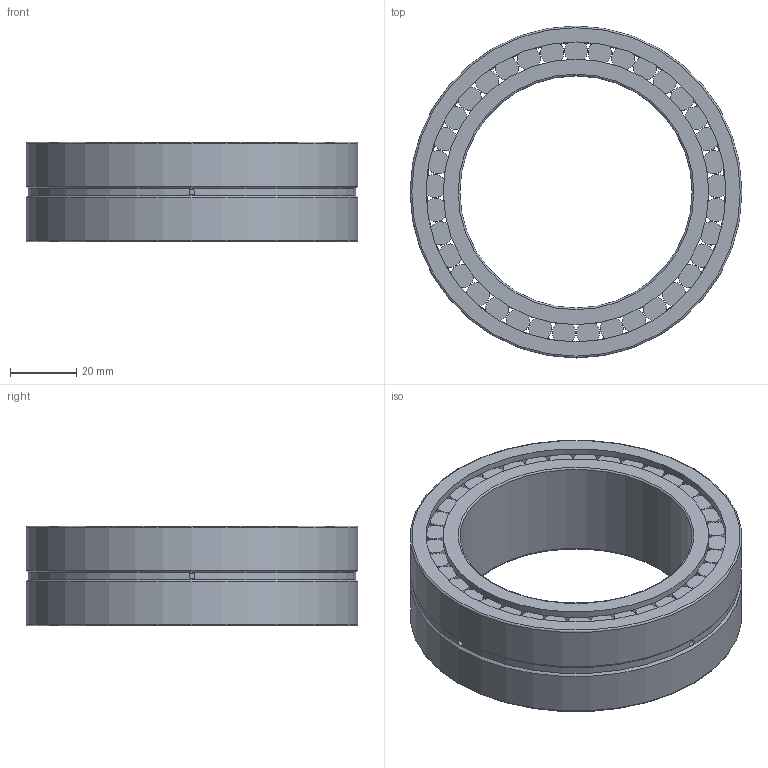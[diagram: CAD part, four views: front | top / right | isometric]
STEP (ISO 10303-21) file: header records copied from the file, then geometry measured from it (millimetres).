
FILE_DESCRIPTION(/* description */ (''),/* implementation_level */ '2;1');
FILE_NAME(/* name */ 'C:\Users\OUREHANEKD\Desktop\Ložiská\MODELY\JRVL\NNCF\NNCF49\NNC49--\NNCF4914V.stp',/* time_stamp */ '2016-09-08T13:57:13+02:00',/* author */ ('OUREHANEKD'),/* organization */ (''),/* preprocessor_version */ 'ST-DEVELOPER v15.6',/* originating_system */ 'Autodesk Inventor 2015',/* authorisation */ '');
FILE_SCHEMA (('AUTOMOTIVE_DESIGN { 1 0 10303 214 3 1 1 }'));
Length unit declared in the file: millimetre
Products named in the file (5): NNCF4914V-02; NNCF4914V-kr; NNCF4914V-roller; NNCF4914V-01; NNCF4914V
Assembly tree (40 placements, depth 2):
  NNCF4914V
    NNCF4914V-02
    NNCF4914V-kr
    NNCF4914V-roller  x37
    NNCF4914V-01
Bounding box: 100 x 100 x 30 mm (x, y, z)
Volume: 96522.3 mm3; surface area: 62868.7 mm2
Topology: 77 solids, 77 shells, 259 faces, 292 edges, 192 vertices
Faces by surface type: plane 161, cylinder 92, torus 4, cone 2
Full cylindrical faces by diameter (mm): 1.8 x3, 7 x74, 70 x1, 78.2 x2, 80 x3, 90 x1, 90.4 x1, 92.2 x2, 93.2 x2, 98.8 x1, 100 x2
Entity records: 1472 total; most frequent: CARTESIAN_POINT 374, DIRECTION 252, AXIS2_PLACEMENT_3D 126, EDGE_LOOP 88, ORIENTED_EDGE 88, FACE_BOUND 45, PRODUCT_DEFINITION_SHAPE 45, VERTEX_POINT 44
